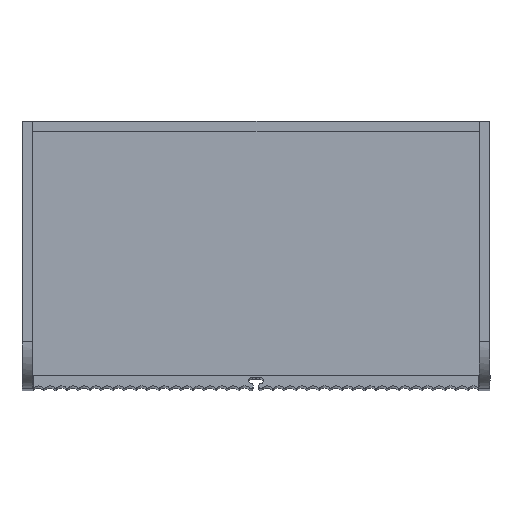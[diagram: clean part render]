
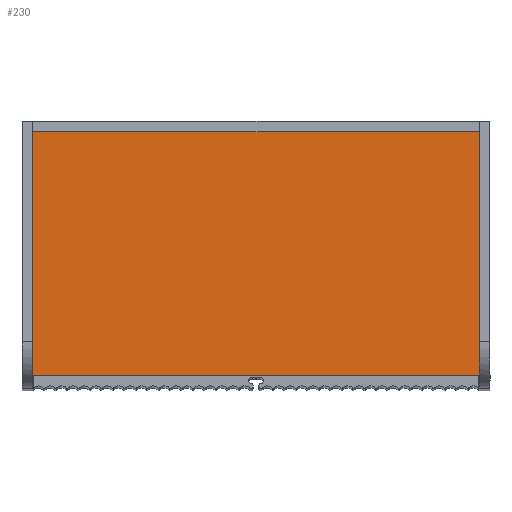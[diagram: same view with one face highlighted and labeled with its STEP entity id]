
A CAD part, top view. The second image highlights one B-rep face of the part: STEP entity #230.
In plain terms, the highlighted planar face has unit normal (0, 0, 1).
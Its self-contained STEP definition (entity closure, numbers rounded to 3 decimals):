
#230=ADVANCED_FACE('',(#396),#2701,.T.);
#396=FACE_OUTER_BOUND('',#562,.T.);
#562=EDGE_LOOP('',(#1390,#1391,#1392,#1393));
#1390=ORIENTED_EDGE('',*,*,#1846,.T.);
#1391=ORIENTED_EDGE('',*,*,#1847,.T.);
#1392=ORIENTED_EDGE('',*,*,#1848,.T.);
#1393=ORIENTED_EDGE('',*,*,#1849,.T.);
#1846=EDGE_CURVE('',#2575,#2574,#2278,.T.);
#1847=EDGE_CURVE('',#2574,#2576,#2279,.T.);
#1848=EDGE_CURVE('',#2576,#2577,#2280,.T.);
#1849=EDGE_CURVE('',#2577,#2575,#2281,.T.);
#2278=B_SPLINE_CURVE_WITH_KNOTS('',1,(#5055,#5056),.UNSPECIFIED.,.F.,.F.,
(2,2),(0.,700.),.UNSPECIFIED.);
#2279=B_SPLINE_CURVE_WITH_KNOTS('',1,(#5057,#5058),.UNSPECIFIED.,.F.,.F.,
(2,2),(700.,1100.),.UNSPECIFIED.);
#2280=B_SPLINE_CURVE_WITH_KNOTS('',1,(#5059,#5060),.UNSPECIFIED.,.F.,.F.,
(2,2),(1100.,1800.),.UNSPECIFIED.);
#2281=B_SPLINE_CURVE_WITH_KNOTS('',1,(#5061,#5062),.UNSPECIFIED.,.F.,.F.,
(2,2),(1800.,2200.),.UNSPECIFIED.);
#2574=VERTEX_POINT('',#5047);
#2575=VERTEX_POINT('',#5048);
#2576=VERTEX_POINT('',#5049);
#2577=VERTEX_POINT('',#5050);
#2701=PLANE('',#2912);
#2912=AXIS2_PLACEMENT_3D('',#5041,#3038,$);
#3038=DIRECTION('',(0.,0.,1.));
#5041=CARTESIAN_POINT('',(-1468.685,196.218,1930.));
#5047=CARTESIAN_POINT('',(-800.685,196.218,1930.));
#5048=CARTESIAN_POINT('',(-1468.685,196.218,1930.));
#5049=CARTESIAN_POINT('',(-800.685,560.218,1930.));
#5050=CARTESIAN_POINT('',(-1468.685,560.218,1930.));
#5055=CARTESIAN_POINT('',(-1468.685,196.218,1930.));
#5056=CARTESIAN_POINT('',(-800.685,196.218,1930.));
#5057=CARTESIAN_POINT('',(-800.685,196.218,1930.));
#5058=CARTESIAN_POINT('',(-800.685,560.218,1930.));
#5059=CARTESIAN_POINT('',(-800.685,560.218,1930.));
#5060=CARTESIAN_POINT('',(-1468.685,560.218,1930.));
#5061=CARTESIAN_POINT('',(-1468.685,560.218,1930.));
#5062=CARTESIAN_POINT('',(-1468.685,196.218,1930.));
